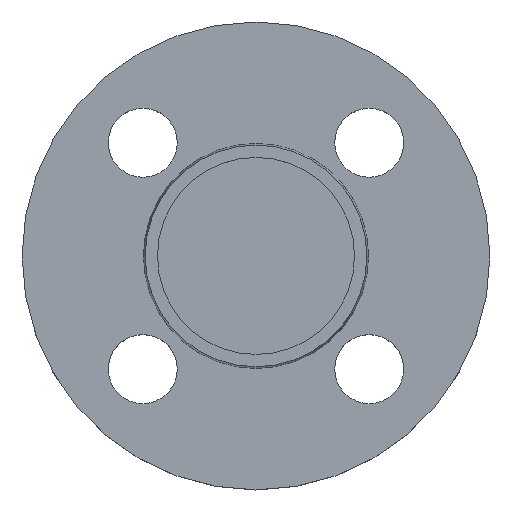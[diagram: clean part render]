
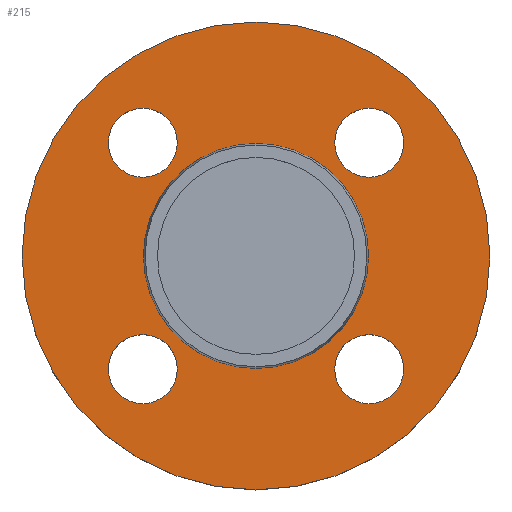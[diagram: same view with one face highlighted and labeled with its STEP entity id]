
A CAD part, top view. The second image highlights one B-rep face of the part: STEP entity #215.
In plain terms, the highlighted planar face has unit normal (0, 0, 1).
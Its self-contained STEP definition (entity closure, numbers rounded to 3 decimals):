
#2 = CIRCLE ( 'NONE', #4, 47.5 ) ;
#4 = AXIS2_PLACEMENT_3D ( 'NONE', #228, #229, #230 ) ;
#9 = CARTESIAN_POINT ( 'NONE',  ( 22.981, 22.981, -2. ) ) ;
#11 = CIRCLE ( 'NONE', #13, 7. ) ;
#13 = AXIS2_PLACEMENT_3D ( 'NONE', #294, #296, #297 ) ;
#14 = CIRCLE ( 'NONE', #16, 7. ) ;
#16 = AXIS2_PLACEMENT_3D ( 'NONE', #305, #306, #307 ) ;
#50 = DIRECTION ( 'NONE',  ( 1., 0., 0. ) ) ;
#53 = DIRECTION ( 'NONE',  ( 0., 0., -1. ) ) ;
#58 = CIRCLE ( 'NONE', #136, 7. ) ;
#75 = EDGE_CURVE ( 'NONE', #571, #532, #268, .T. ) ;
#87 = DIRECTION ( 'NONE',  ( -1., 0., 0. ) ) ;
#88 = AXIS2_PLACEMENT_3D ( 'NONE', #9, #53, #50 ) ;
#89 = CIRCLE ( 'NONE', #88, 7. ) ;
#91 = DIRECTION ( 'NONE',  ( 0., 0., -1. ) ) ;
#98 = CARTESIAN_POINT ( 'NONE',  ( 0., 0., -2. ) ) ;
#136 = AXIS2_PLACEMENT_3D ( 'NONE', #156, #160, #158 ) ;
#148 = CARTESIAN_POINT ( 'NONE',  ( 22.853, 0., -2. ) ) ;
#150 = CARTESIAN_POINT ( 'NONE',  ( 15.981, -22.981, -2. ) ) ;
#153 = CIRCLE ( 'NONE', #154, 22.853 ) ;
#154 = AXIS2_PLACEMENT_3D ( 'NONE', #98, #91, #87 ) ;
#156 = CARTESIAN_POINT ( 'NONE',  ( -22.981, -22.981, -2. ) ) ;
#158 = DIRECTION ( 'NONE',  ( 1., 0., 0. ) ) ;
#159 = CARTESIAN_POINT ( 'NONE',  ( 15.981, 22.981, -2. ) ) ;
#160 = DIRECTION ( 'NONE',  ( 0., 0., -1. ) ) ;
#162 = CARTESIAN_POINT ( 'NONE',  ( -15.981, 22.981, -2. ) ) ;
#175 = AXIS2_PLACEMENT_3D ( 'NONE', #690, #691, #692 ) ;
#176 = CIRCLE ( 'NONE', #175, 7. ) ;
#180 = CARTESIAN_POINT ( 'NONE',  ( -47.5, 0., -2. ) ) ;
#187 = EDGE_CURVE ( 'NONE', #572, #396, #257, .T. ) ;
#206 = EDGE_CURVE ( 'NONE', #394, #547, #251, .T. ) ;
#211 = AXIS2_PLACEMENT_3D ( 'NONE', #662, #663, #664 ) ;
#212 = CIRCLE ( 'NONE', #211, 7. ) ;
#213 = AXIS2_PLACEMENT_3D ( 'NONE', #659, #660, #661 ) ;
#215 = ADVANCED_FACE ( 'NONE', ( #627, #629, #630, #631, #633, #634 ), #635, .T. ) ;
#223 = CIRCLE ( 'NONE', #213, 47.5 ) ;
#228 = CARTESIAN_POINT ( 'NONE',  ( 0., 0., -2. ) ) ;
#229 = DIRECTION ( 'NONE',  ( 0., 0., -1. ) ) ;
#230 = DIRECTION ( 'NONE',  ( -1., 0., 0. ) ) ;
#247 = AXIS2_PLACEMENT_3D ( 'NONE', #636, #637, #639 ) ;
#248 = AXIS2_PLACEMENT_3D ( 'NONE', #623, #625, #626 ) ;
#250 = EDGE_CURVE ( 'NONE', #391, #565, #223, .T. ) ;
#251 = CIRCLE ( 'NONE', #248, 7. ) ;
#254 = EDGE_CURVE ( 'NONE', #389, #543, #212, .T. ) ;
#256 = AXIS2_PLACEMENT_3D ( 'NONE', #617, #618, #619 ) ;
#257 = CIRCLE ( 'NONE', #256, 22.853 ) ;
#262 = AXIS2_PLACEMENT_3D ( 'NONE', #603, #604, #605 ) ;
#268 = CIRCLE ( 'NONE', #262, 7. ) ;
#286 = CARTESIAN_POINT ( 'NONE',  ( -29.981, -22.981, -2. ) ) ;
#287 = CARTESIAN_POINT ( 'NONE',  ( 47.5, 0., -2. ) ) ;
#289 = CARTESIAN_POINT ( 'NONE',  ( -29.981, 22.981, -2. ) ) ;
#290 = CARTESIAN_POINT ( 'NONE',  ( -22.853, 0., -2. ) ) ;
#294 = CARTESIAN_POINT ( 'NONE',  ( -22.981, 22.981, -2. ) ) ;
#295 = EDGE_CURVE ( 'NONE', #532, #571, #176, .T. ) ;
#296 = DIRECTION ( 'NONE',  ( 0., 0., -1. ) ) ;
#297 = DIRECTION ( 'NONE',  ( 1., 0., 0. ) ) ;
#305 = CARTESIAN_POINT ( 'NONE',  ( 22.981, 22.981, -2. ) ) ;
#306 = DIRECTION ( 'NONE',  ( 0., 0., -1. ) ) ;
#307 = DIRECTION ( 'NONE',  ( 1., 0., 0. ) ) ;
#356 = EDGE_CURVE ( 'NONE', #530, #564, #89, .T. ) ;
#363 = CARTESIAN_POINT ( 'NONE',  ( 29.981, 22.981, -2. ) ) ;
#364 = CARTESIAN_POINT ( 'NONE',  ( 29.981, -22.981, -2. ) ) ;
#376 = EDGE_CURVE ( 'NONE', #565, #391, #2, .T. ) ;
#381 = CARTESIAN_POINT ( 'NONE',  ( -15.981, -22.981, -2. ) ) ;
#389 = VERTEX_POINT ( 'NONE', #286 ) ;
#391 = VERTEX_POINT ( 'NONE', #287 ) ;
#392 = EDGE_LOOP ( 'NONE', ( #453, #454 ) ) ;
#394 = VERTEX_POINT ( 'NONE', #289 ) ;
#396 = VERTEX_POINT ( 'NONE', #290 ) ;
#401 = EDGE_CURVE ( 'NONE', #547, #394, #11, .T. ) ;
#415 = EDGE_CURVE ( 'NONE', #564, #530, #14, .T. ) ;
#453 = ORIENTED_EDGE ( 'NONE', *, *, #295, .T. ) ;
#454 = ORIENTED_EDGE ( 'NONE', *, *, #75, .T. ) ;
#455 = ORIENTED_EDGE ( 'NONE', *, *, #553, .T. ) ;
#457 = ORIENTED_EDGE ( 'NONE', *, *, #254, .T. ) ;
#458 = ORIENTED_EDGE ( 'NONE', *, *, #401, .T. ) ;
#459 = ORIENTED_EDGE ( 'NONE', *, *, #206, .T. ) ;
#460 = ORIENTED_EDGE ( 'NONE', *, *, #356, .T. ) ;
#461 = ORIENTED_EDGE ( 'NONE', *, *, #415, .T. ) ;
#462 = ORIENTED_EDGE ( 'NONE', *, *, #647, .T. ) ;
#463 = ORIENTED_EDGE ( 'NONE', *, *, #187, .T. ) ;
#464 = ORIENTED_EDGE ( 'NONE', *, *, #250, .F. ) ;
#466 = ORIENTED_EDGE ( 'NONE', *, *, #376, .F. ) ;
#530 = VERTEX_POINT ( 'NONE', #363 ) ;
#532 = VERTEX_POINT ( 'NONE', #364 ) ;
#533 = EDGE_LOOP ( 'NONE', ( #460, #461 ) ) ;
#534 = EDGE_LOOP ( 'NONE', ( #464, #466 ) ) ;
#539 = EDGE_LOOP ( 'NONE', ( #462, #463 ) ) ;
#543 = VERTEX_POINT ( 'NONE', #381 ) ;
#547 = VERTEX_POINT ( 'NONE', #162 ) ;
#553 = EDGE_CURVE ( 'NONE', #543, #389, #58, .T. ) ;
#556 = EDGE_LOOP ( 'NONE', ( #455, #457 ) ) ;
#559 = EDGE_LOOP ( 'NONE', ( #458, #459 ) ) ;
#564 = VERTEX_POINT ( 'NONE', #159 ) ;
#565 = VERTEX_POINT ( 'NONE', #180 ) ;
#571 = VERTEX_POINT ( 'NONE', #150 ) ;
#572 = VERTEX_POINT ( 'NONE', #148 ) ;
#603 = CARTESIAN_POINT ( 'NONE',  ( 22.981, -22.981, -2. ) ) ;
#604 = DIRECTION ( 'NONE',  ( 0., 0., -1. ) ) ;
#605 = DIRECTION ( 'NONE',  ( 1., 0., 0. ) ) ;
#617 = CARTESIAN_POINT ( 'NONE',  ( 0., 0., -2. ) ) ;
#618 = DIRECTION ( 'NONE',  ( 0., 0., -1. ) ) ;
#619 = DIRECTION ( 'NONE',  ( -1., 0., 0. ) ) ;
#623 = CARTESIAN_POINT ( 'NONE',  ( -22.981, 22.981, -2. ) ) ;
#625 = DIRECTION ( 'NONE',  ( 0., 0., -1. ) ) ;
#626 = DIRECTION ( 'NONE',  ( 1., 0., 0. ) ) ;
#627 = FACE_BOUND ( 'NONE', #392, .T. ) ;
#629 = FACE_BOUND ( 'NONE', #556, .T. ) ;
#630 = FACE_BOUND ( 'NONE', #559, .T. ) ;
#631 = FACE_BOUND ( 'NONE', #533, .T. ) ;
#633 = FACE_BOUND ( 'NONE', #539, .T. ) ;
#634 = FACE_OUTER_BOUND ( 'NONE', #534, .T. ) ;
#635 = PLANE ( 'NONE',  #247 ) ;
#636 = CARTESIAN_POINT ( 'NONE',  ( 22.853, 0., -2. ) ) ;
#637 = DIRECTION ( 'NONE',  ( 0., 0., 1. ) ) ;
#639 = DIRECTION ( 'NONE',  ( 1., 0., 0. ) ) ;
#647 = EDGE_CURVE ( 'NONE', #396, #572, #153, .T. ) ;
#659 = CARTESIAN_POINT ( 'NONE',  ( 0., 0., -2. ) ) ;
#660 = DIRECTION ( 'NONE',  ( 0., 0., -1. ) ) ;
#661 = DIRECTION ( 'NONE',  ( -1., 0., 0. ) ) ;
#662 = CARTESIAN_POINT ( 'NONE',  ( -22.981, -22.981, -2. ) ) ;
#663 = DIRECTION ( 'NONE',  ( 0., 0., -1. ) ) ;
#664 = DIRECTION ( 'NONE',  ( 1., 0., 0. ) ) ;
#690 = CARTESIAN_POINT ( 'NONE',  ( 22.981, -22.981, -2. ) ) ;
#691 = DIRECTION ( 'NONE',  ( 0., 0., -1. ) ) ;
#692 = DIRECTION ( 'NONE',  ( 1., 0., 0. ) ) ;
